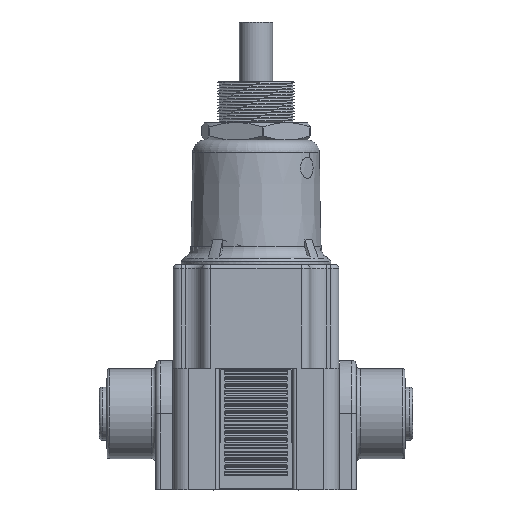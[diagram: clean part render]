
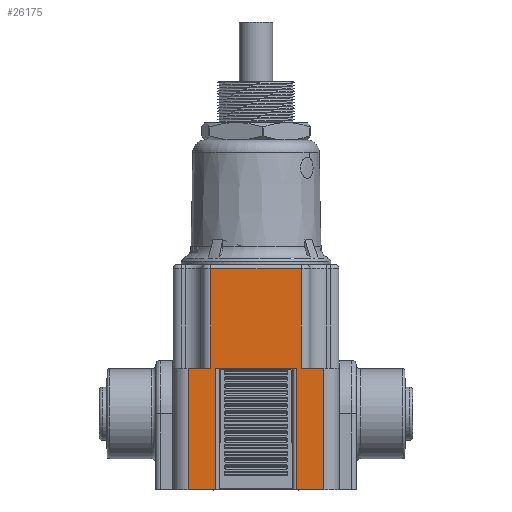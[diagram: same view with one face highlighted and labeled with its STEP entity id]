
A CAD part, left-side view. The second image highlights one B-rep face of the part: STEP entity #26175.
In plain terms, the highlighted planar face has unit normal (-1, 0, 0).
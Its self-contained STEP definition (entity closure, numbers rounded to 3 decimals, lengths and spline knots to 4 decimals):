
#1208=PLANE('',#28132);
#2177=FACE_OUTER_BOUND('',#3710,.T.);
#3710=EDGE_LOOP('',(#18664,#18665,#18666,#18667,#18668,#18669,#18670,#18671,
#18672,#18673,#18674,#18675));
#6822=LINE('',#46928,#8672);
#6824=LINE('',#46936,#8674);
#6825=LINE('',#46949,#8675);
#6854=LINE('',#47142,#8704);
#6856=LINE('',#47150,#8706);
#6857=LINE('',#47155,#8707);
#6858=LINE('',#47157,#8708);
#6859=LINE('',#47158,#8709);
#6860=LINE('',#47160,#8710);
#6861=LINE('',#47161,#8711);
#6862=LINE('',#47163,#8712);
#6863=LINE('',#47164,#8713);
#8672=VECTOR('',#32541,0.3937);
#8674=VECTOR('',#32549,0.3937);
#8675=VECTOR('',#32554,0.3937);
#8704=VECTOR('',#32673,0.3937);
#8706=VECTOR('',#32681,0.3937);
#8707=VECTOR('',#32686,0.3937);
#8708=VECTOR('',#32687,0.3937);
#8709=VECTOR('',#32688,0.3937);
#8710=VECTOR('',#32689,0.3937);
#8711=VECTOR('',#32690,0.3937);
#8712=VECTOR('',#32691,0.3937);
#8713=VECTOR('',#32692,0.3937);
#10717=VERTEX_POINT('',#46925);
#10718=VERTEX_POINT('',#46927);
#10721=VERTEX_POINT('',#46935);
#10723=VERTEX_POINT('',#46948);
#10770=VERTEX_POINT('',#47139);
#10771=VERTEX_POINT('',#47141);
#10774=VERTEX_POINT('',#47149);
#10775=VERTEX_POINT('',#47153);
#10776=VERTEX_POINT('',#47154);
#10777=VERTEX_POINT('',#47156);
#10778=VERTEX_POINT('',#47159);
#10779=VERTEX_POINT('',#47162);
#13597=EDGE_CURVE('',#10718,#10717,#6822,.T.);
#13601=EDGE_CURVE('',#10718,#10721,#6824,.T.);
#13604=EDGE_CURVE('',#10717,#10723,#6825,.T.);
#13668=EDGE_CURVE('',#10770,#10771,#6854,.T.);
#13672=EDGE_CURVE('',#10771,#10774,#6856,.T.);
#13674=EDGE_CURVE('',#10775,#10776,#6857,.T.);
#13675=EDGE_CURVE('',#10777,#10775,#6858,.T.);
#13676=EDGE_CURVE('',#10777,#10774,#6859,.T.);
#13677=EDGE_CURVE('',#10770,#10778,#6860,.T.);
#13678=EDGE_CURVE('',#10778,#10721,#6861,.T.);
#13679=EDGE_CURVE('',#10723,#10779,#6862,.T.);
#13680=EDGE_CURVE('',#10779,#10776,#6863,.T.);
#18664=ORIENTED_EDGE('',*,*,#13674,.F.);
#18665=ORIENTED_EDGE('',*,*,#13675,.F.);
#18666=ORIENTED_EDGE('',*,*,#13676,.T.);
#18667=ORIENTED_EDGE('',*,*,#13672,.F.);
#18668=ORIENTED_EDGE('',*,*,#13668,.F.);
#18669=ORIENTED_EDGE('',*,*,#13677,.T.);
#18670=ORIENTED_EDGE('',*,*,#13678,.T.);
#18671=ORIENTED_EDGE('',*,*,#13601,.F.);
#18672=ORIENTED_EDGE('',*,*,#13597,.T.);
#18673=ORIENTED_EDGE('',*,*,#13604,.T.);
#18674=ORIENTED_EDGE('',*,*,#13679,.T.);
#18675=ORIENTED_EDGE('',*,*,#13680,.T.);
#26175=ADVANCED_FACE('',(#2177),#1208,.T.);
#28132=AXIS2_PLACEMENT_3D('',#47152,#32684,#32685);
#32541=DIRECTION('',(0.,-1.,0.));
#32549=DIRECTION('',(0.,0.,1.));
#32554=DIRECTION('',(0.,0.,1.));
#32673=DIRECTION('',(0.,1.,0.));
#32681=DIRECTION('',(0.,0.,1.));
#32684=DIRECTION('center_axis',(-1.,0.,0.));
#32685=DIRECTION('ref_axis',(0.,0.,
1.));
#32686=DIRECTION('',(0.,-1.,0.));
#32687=DIRECTION('',(0.,0.,1.));
#32688=DIRECTION('',(0.,1.,0.));
#32689=DIRECTION('',(0.,0.,1.));
#32690=DIRECTION('',(0.,-1.,0.));
#32691=DIRECTION('',(0.,1.,0.));
#32692=DIRECTION('',(0.,0.,1.));
#46925=CARTESIAN_POINT('',(-1.665,0.2083,-1.1255));
#46927=CARTESIAN_POINT('',(-1.665,0.4133,-1.1255));
#46928=CARTESIAN_POINT('',(-1.665,0.4133,-1.1255));
#46935=CARTESIAN_POINT('',(-1.665,0.4133,-0.2315));
#46936=CARTESIAN_POINT('',(-1.665,0.4133,-1.1255));
#46948=CARTESIAN_POINT('',(-1.665,0.2083,-0.2315));
#46949=CARTESIAN_POINT('',(-1.665,0.2083,-1.1255));
#47139=CARTESIAN_POINT('',(-1.665,1.0013,-1.1255));
#47141=CARTESIAN_POINT('',(-1.665,1.2063,-1.1255));
#47142=CARTESIAN_POINT('',(-1.665,1.0013,-1.1255));
#47149=CARTESIAN_POINT('',(-1.665,1.2063,-0.2315));
#47150=CARTESIAN_POINT('',(-1.665,1.2063,-1.1255));
#47152=CARTESIAN_POINT('Origin',(-1.665,0.2079,-0.3125));
#47153=CARTESIAN_POINT('',(-1.665,1.0413,0.5005));
#47154=CARTESIAN_POINT('',(-1.665,0.3733,0.5005));
#47155=CARTESIAN_POINT('',(-1.665,1.0413,0.5005));
#47156=CARTESIAN_POINT('',(-1.665,1.0413,-0.2315));
#47157=CARTESIAN_POINT('',(-1.665,1.0413,-0.2315));
#47158=CARTESIAN_POINT('',(-1.665,1.0413,-0.2315));
#47159=CARTESIAN_POINT('',(-1.665,1.0013,-0.2315));
#47160=CARTESIAN_POINT('',(-1.665,1.0013,-1.1255));
#47161=CARTESIAN_POINT('',(-1.665,1.0013,-0.2315));
#47162=CARTESIAN_POINT('',(-1.665,0.3733,-0.2315));
#47163=CARTESIAN_POINT('',(-1.665,0.2083,-0.2315));
#47164=CARTESIAN_POINT('',(-1.665,0.3733,-0.2315));
